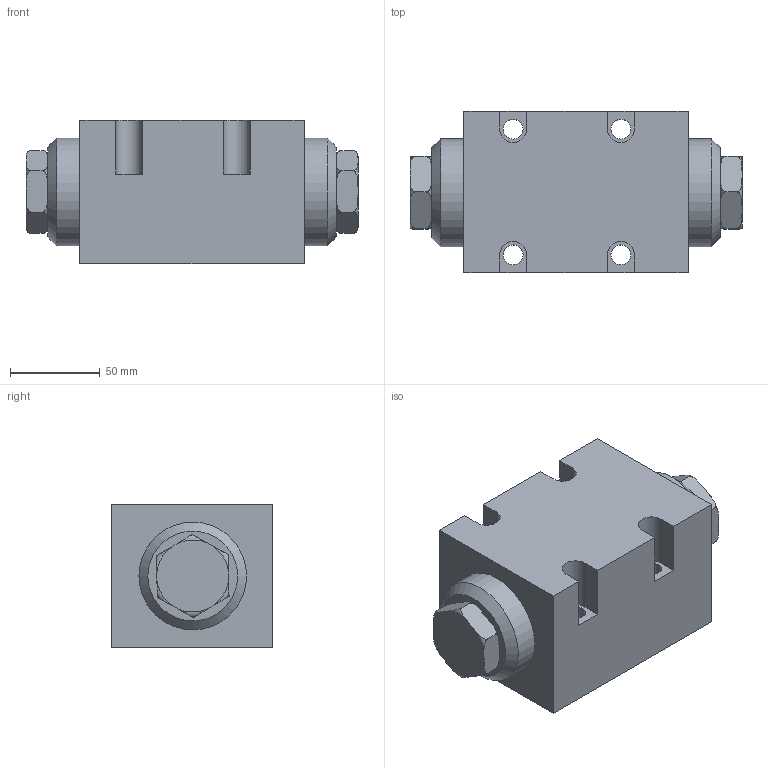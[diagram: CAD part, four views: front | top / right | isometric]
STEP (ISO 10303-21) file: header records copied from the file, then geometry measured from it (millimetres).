
FILE_DESCRIPTION(/* description */ (''),/* implementation_level */ '2;1');
FILE_NAME(/* name */ '3FJLG-B20 3FJLG-B25.stp',/* time_stamp */ '2023-05-06T10:09:02+08:00',/* author */ (''),/* organization */ (''),/* preprocessor_version */ 'ST-DEVELOPER v16.7',/* originating_system */ 'SIEMENS PLM Software NX 12.0',/* authorisation */ '');
FILE_SCHEMA (('AUTOMOTIVE_DESIGN { 1 0 10303 214 3 1 1 1 }'));
Length unit declared in the file: millimetre
Products named in the file (1): 3F JLc-B20_stp
Bounding box: 185 x 90 x 80 mm (x, y, z)
Volume: 978827.1 mm3; surface area: 82921.3 mm2
Topology: 3 solids, 3 shells, 84 faces, 220 edges, 147 vertices
Faces by surface type: plane 39, torus 24, cylinder 16, cone 5
Full cylindrical faces by diameter (mm): 6 x2, 8 x1, 11 x4, 14 x2, 16 x1, 60 x2
Entity records: 2822 total; most frequent: CARTESIAN_POINT 852, ORIENTED_EDGE 388, DIRECTION 374, EDGE_CURVE 194, AXIS2_PLACEMENT_3D 143, VERTEX_POINT 141, EDGE_LOOP 114, LINE 88
